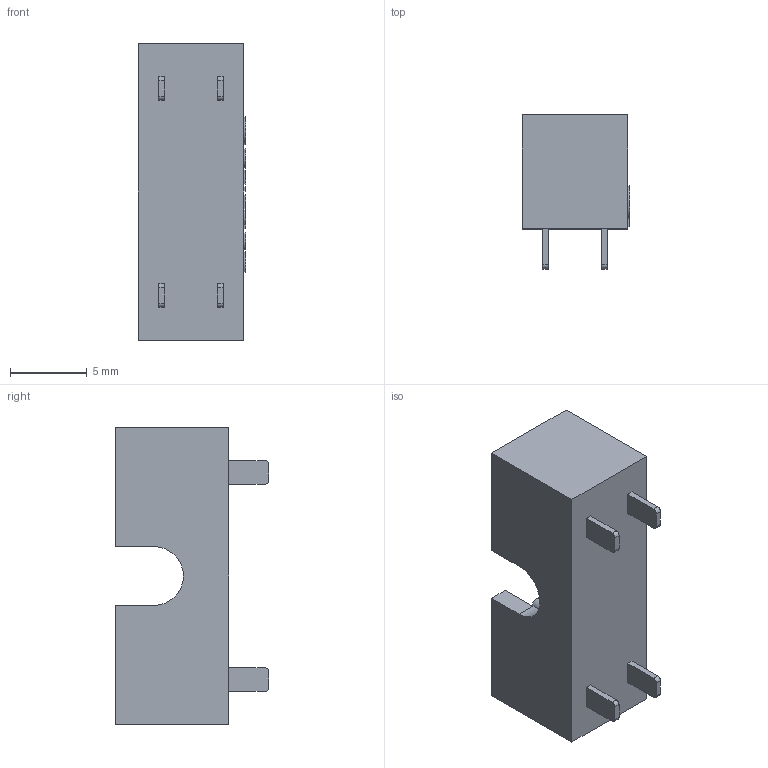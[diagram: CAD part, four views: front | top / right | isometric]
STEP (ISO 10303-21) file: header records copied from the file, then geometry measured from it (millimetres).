
FILE_DESCRIPTION(/* description */ (''),/* implementation_level */ '2;1');
FILE_NAME(/* name */ 'C:\Users\Hani\Desktop\work\CNU-03 and APR58-UL\CNU-03.stp',/* time_stamp */ '2021-08-22T10:37:15-07:00',/* author */ ('Hani'),/* organization */ (''),/* preprocessor_version */ 'ST-DEVELOPER v17',/* originating_system */ 'Autodesk Inventor 2019',/* authorisation */ '');
FILE_SCHEMA (('AUTOMOTIVE_DESIGN { 1 0 10303 214 3 1 1 }'));
Length unit declared in the file: inch
Products named in the file (1): CNU-03 Fuse Clip
Bounding box: 6.99 x 10.01 x 19.3 mm (x, y, z)
Volume: 595.7 mm3; surface area: 1396.8 mm2
Topology: 1 solids, 1 shells, 332 faces, 904 edges, 592 vertices
Faces by surface type: plane 175, bspline 75, cylinder 74, torus 8
Entity records: 11516 total; most frequent: CARTESIAN_POINT 3461, ORIENTED_EDGE 1808, DIRECTION 1390, EDGE_CURVE 904, VERTEX_POINT 592, LINE 578, VECTOR 578, AXIS2_PLACEMENT_3D 406
